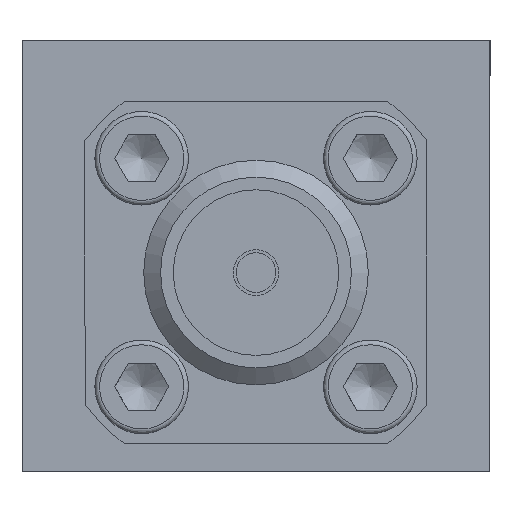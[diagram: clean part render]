
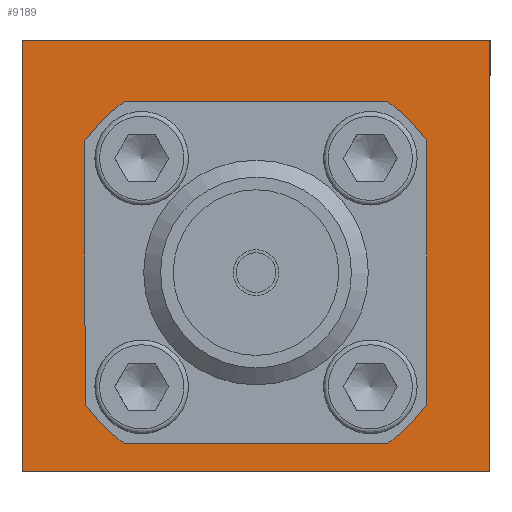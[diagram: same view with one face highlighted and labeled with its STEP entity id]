
A CAD part, left-side view. The second image highlights one B-rep face of the part: STEP entity #9189.
In plain terms, the highlighted planar face has unit normal (-1, 0, 0).
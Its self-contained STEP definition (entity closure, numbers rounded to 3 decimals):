
#145=LINE('',#11811,#693);
#149=LINE('',#11821,#697);
#152=LINE('',#11829,#700);
#155=LINE('',#11837,#703);
#276=LINE('',#12506,#824);
#613=LINE('',#13210,#1161);
#618=LINE('',#13220,#1166);
#620=LINE('',#13224,#1168);
#693=VECTOR('',#10061,1000.);
#697=VECTOR('',#10071,1000.);
#700=VECTOR('',#10080,1000.);
#703=VECTOR('',#10089,1000.);
#824=VECTOR('',#10570,1000.);
#1161=VECTOR('',#11177,1000.);
#1166=VECTOR('',#11184,1000.);
#1168=VECTOR('',#11190,1000.);
#1487=PLANE('',#9717);
#2789=ORIENTED_EDGE('',*,*,#3255,.F.);
#2790=ORIENTED_EDGE('',*,*,#3257,.F.);
#2791=ORIENTED_EDGE('',*,*,#3242,.F.);
#2792=ORIENTED_EDGE('',*,*,#3245,.F.);
#2793=ORIENTED_EDGE('',*,*,#3247,.F.);
#2794=ORIENTED_EDGE('',*,*,#3249,.F.);
#2795=ORIENTED_EDGE('',*,*,#3251,.F.);
#2796=ORIENTED_EDGE('',*,*,#3253,.F.);
#2797=ORIENTED_EDGE('',*,*,#3484,.F.);
#2798=ORIENTED_EDGE('',*,*,#3836,.F.);
#2799=ORIENTED_EDGE('',*,*,#3829,.T.);
#2800=ORIENTED_EDGE('',*,*,#3834,.T.);
#3242=EDGE_CURVE('',#4072,#4073,#145,.T.);
#3245=EDGE_CURVE('',#4074,#4072,#4678,.T.);
#3247=EDGE_CURVE('',#4075,#4074,#149,.T.);
#3249=EDGE_CURVE('',#4076,#4075,#4679,.T.);
#3251=EDGE_CURVE('',#4077,#4076,#152,.T.);
#3253=EDGE_CURVE('',#4078,#4077,#4680,.T.);
#3255=EDGE_CURVE('',#4079,#4078,#155,.T.);
#3257=EDGE_CURVE('',#4073,#4079,#4681,.T.);
#3484=EDGE_CURVE('',#4254,#4251,#276,.T.);
#3829=EDGE_CURVE('',#4487,#4488,#613,.T.);
#3834=EDGE_CURVE('',#4488,#4251,#618,.T.);
#3836=EDGE_CURVE('',#4487,#4254,#620,.T.);
#4072=VERTEX_POINT('',#11812);
#4073=VERTEX_POINT('',#11813);
#4074=VERTEX_POINT('',#11818);
#4075=VERTEX_POINT('',#11822);
#4076=VERTEX_POINT('',#11826);
#4077=VERTEX_POINT('',#11830);
#4078=VERTEX_POINT('',#11834);
#4079=VERTEX_POINT('',#11838);
#4251=VERTEX_POINT('',#12496);
#4254=VERTEX_POINT('',#12505);
#4487=VERTEX_POINT('',#13211);
#4488=VERTEX_POINT('',#13212);
#4678=CIRCLE('',#9392,6.);
#4679=CIRCLE('',#9395,6.);
#4680=CIRCLE('',#9398,6.);
#4681=CIRCLE('',#9401,6.);
#5228=EDGE_LOOP('',(#2789,#2790,#2791,#2792,#2793,#2794,#2795,#2796));
#5229=EDGE_LOOP('',(#2797,#2798,#2799,#2800));
#5800=FACE_BOUND('',#5228,.T.);
#5801=FACE_BOUND('',#5229,.T.);
#9189=ADVANCED_FACE('',(#5800,#5801),#1487,.T.);
#9392=AXIS2_PLACEMENT_3D('',#11817,#10066,#10067);
#9395=AXIS2_PLACEMENT_3D('',#11825,#10075,#10076);
#9398=AXIS2_PLACEMENT_3D('',#11833,#10084,#10085);
#9401=AXIS2_PLACEMENT_3D('',#11841,#10093,#10094);
#9717=AXIS2_PLACEMENT_3D('',#13223,#11188,#11189);
#10061=DIRECTION('',(0.,1.,0.));
#10066=DIRECTION('',(-1.,0.,0.));
#10067=DIRECTION('',(0.,0.,-1.));
#10071=DIRECTION('',(0.,0.,1.));
#10075=DIRECTION('',(-1.,0.,0.));
#10076=DIRECTION('',(0.,0.,-1.));
#10080=DIRECTION('',(0.,-1.,0.));
#10084=DIRECTION('',(-1.,0.,0.));
#10085=DIRECTION('',(0.,0.,-1.));
#10089=DIRECTION('',(0.,0.,-1.));
#10093=DIRECTION('',(-1.,0.,0.));
#10094=DIRECTION('',(0.,0.,-1.));
#10570=DIRECTION('',(0.,-1.,0.));
#11177=DIRECTION('',(0.,-1.,0.));
#11184=DIRECTION('',(0.,0.,1.));
#11188=DIRECTION('',(-1.,0.,0.));
#11189=DIRECTION('',(0.,0.,1.));
#11190=DIRECTION('',(0.,0.,1.));
#11811=CARTESIAN_POINT('',(-18.,-3.666,0.29));
#11812=CARTESIAN_POINT('',(-18.,-3.666,0.29));
#11813=CARTESIAN_POINT('',(-18.,3.666,0.29));
#11817=CARTESIAN_POINT('',(-18.,0.,-4.46));
#11818=CARTESIAN_POINT('',(-18.,-4.75,-0.794));
#11821=CARTESIAN_POINT('',(-18.,-4.75,-8.126));
#11822=CARTESIAN_POINT('',(-18.,-4.75,-8.126));
#11825=CARTESIAN_POINT('',(-18.,0.,-4.46));
#11826=CARTESIAN_POINT('',(-18.,-3.666,-9.21));
#11829=CARTESIAN_POINT('',(-18.,3.666,-9.21));
#11830=CARTESIAN_POINT('',(-18.,3.666,-9.21));
#11833=CARTESIAN_POINT('',(-18.,0.,-4.46));
#11834=CARTESIAN_POINT('',(-18.,4.75,-8.126));
#11837=CARTESIAN_POINT('',(-18.,4.75,-0.794));
#11838=CARTESIAN_POINT('',(-18.,4.75,-0.794));
#11841=CARTESIAN_POINT('',(-18.,0.,-4.46));
#12496=CARTESIAN_POINT('',(-18.,-6.5,2.));
#12505=CARTESIAN_POINT('',(-18.,6.5,2.));
#12506=CARTESIAN_POINT('',(-18.,6.5,2.));
#13210=CARTESIAN_POINT('',(-18.,6.5,-10.));
#13211=CARTESIAN_POINT('',(-18.,6.5,-10.));
#13212=CARTESIAN_POINT('',(-18.,-6.5,-10.));
#13220=CARTESIAN_POINT('',(-18.,-6.5,-10.));
#13223=CARTESIAN_POINT('',(-18.,6.5,-10.));
#13224=CARTESIAN_POINT('',(-18.,6.5,-10.));
